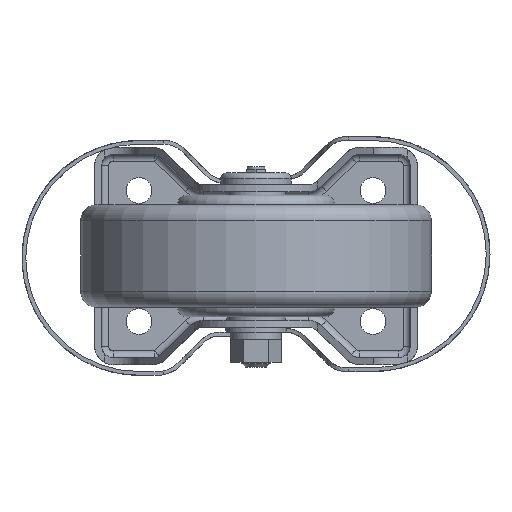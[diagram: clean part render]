
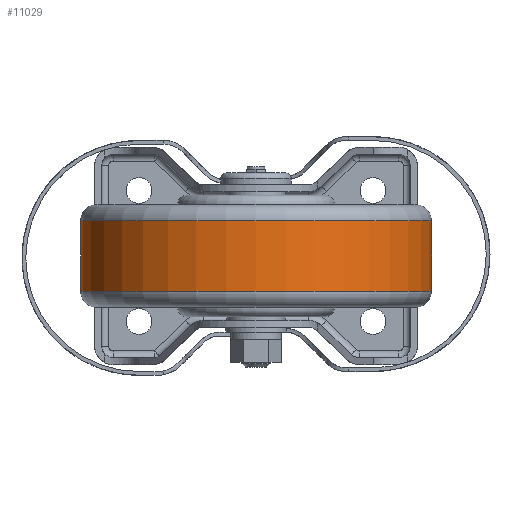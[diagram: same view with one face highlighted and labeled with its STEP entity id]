
A CAD part, front view. The second image highlights one B-rep face of the part: STEP entity #11029.
In plain terms, the highlighted cylindrical face has radius 75 mm (diameter 150 mm), a partial arc.
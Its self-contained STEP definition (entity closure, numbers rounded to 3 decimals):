
#276 = AXIS2_PLACEMENT_3D ( 'NONE', #3097, #9190, #3411 ) ;
#534 = CARTESIAN_POINT ( 'NONE',  ( -75., 0., -15. ) ) ;
#731 = ORIENTED_EDGE ( 'NONE', *, *, #6165, .F. ) ;
#746 = CIRCLE ( 'NONE', #9332, 75. ) ;
#1023 = VECTOR ( 'NONE', #6380, 1000. ) ;
#1047 = DIRECTION ( 'NONE',  ( 1., 0., 0. ) ) ;
#1069 = VERTEX_POINT ( 'NONE', #534 ) ;
#1269 = LINE ( 'NONE', #6351, #1023 ) ;
#1343 = CYLINDRICAL_SURFACE ( 'NONE', #276, 75. ) ;
#1689 = VERTEX_POINT ( 'NONE', #1904 ) ;
#1757 = DIRECTION ( 'NONE',  ( 0., 0., 1. ) ) ;
#1880 = VERTEX_POINT ( 'NONE', #10930 ) ;
#1904 = CARTESIAN_POINT ( 'NONE',  ( 75., 0., -15. ) ) ;
#2438 = CIRCLE ( 'NONE', #7135, 75. ) ;
#3097 = CARTESIAN_POINT ( 'NONE',  ( 0., 0., 34.804 ) ) ;
#3221 = LINE ( 'NONE', #6884, #7613 ) ;
#3411 = DIRECTION ( 'NONE',  ( 1., 0., 0. ) ) ;
#3908 = CARTESIAN_POINT ( 'NONE',  ( -75., 0., 15. ) ) ;
#4435 = ORIENTED_EDGE ( 'NONE', *, *, #6123, .T. ) ;
#5056 = EDGE_LOOP ( 'NONE', ( #9145, #8426, #4435, #731 ) ) ;
#5552 = CARTESIAN_POINT ( 'NONE',  ( 0., 0., -15. ) ) ;
#5587 = DIRECTION ( 'NONE',  ( 0., 0., 1. ) ) ;
#6107 = EDGE_CURVE ( 'NONE', #1069, #6854, #1269, .T. ) ;
#6123 = EDGE_CURVE ( 'NONE', #1689, #1880, #3221, .T. ) ;
#6165 = EDGE_CURVE ( 'NONE', #6854, #1880, #746, .T. ) ;
#6201 = EDGE_CURVE ( 'NONE', #1069, #1689, #2438, .T. ) ;
#6351 = CARTESIAN_POINT ( 'NONE',  ( -75., 0., 34.804 ) ) ;
#6380 = DIRECTION ( 'NONE',  ( 0., 0., 1. ) ) ;
#6416 = DIRECTION ( 'NONE',  ( 0., 0., 1. ) ) ;
#6717 = CARTESIAN_POINT ( 'NONE',  ( 0., 0., 15. ) ) ;
#6854 = VERTEX_POINT ( 'NONE', #3908 ) ;
#6884 = CARTESIAN_POINT ( 'NONE',  ( 75., 0., 34.804 ) ) ;
#7135 = AXIS2_PLACEMENT_3D ( 'NONE', #5552, #5587, #1047 ) ;
#7613 = VECTOR ( 'NONE', #6416, 1000. ) ;
#7740 = DIRECTION ( 'NONE',  ( 1., 0., 0. ) ) ;
#8426 = ORIENTED_EDGE ( 'NONE', *, *, #6201, .T. ) ;
#9145 = ORIENTED_EDGE ( 'NONE', *, *, #6107, .F. ) ;
#9190 = DIRECTION ( 'NONE',  ( 0., 0., 1. ) ) ;
#9332 = AXIS2_PLACEMENT_3D ( 'NONE', #6717, #1757, #7740 ) ;
#10930 = CARTESIAN_POINT ( 'NONE',  ( 75., 0., 15. ) ) ;
#11029 = ADVANCED_FACE ( 'NONE', ( #11149 ), #1343, .T. ) ;
#11149 = FACE_OUTER_BOUND ( 'NONE', #5056, .T. ) ;
